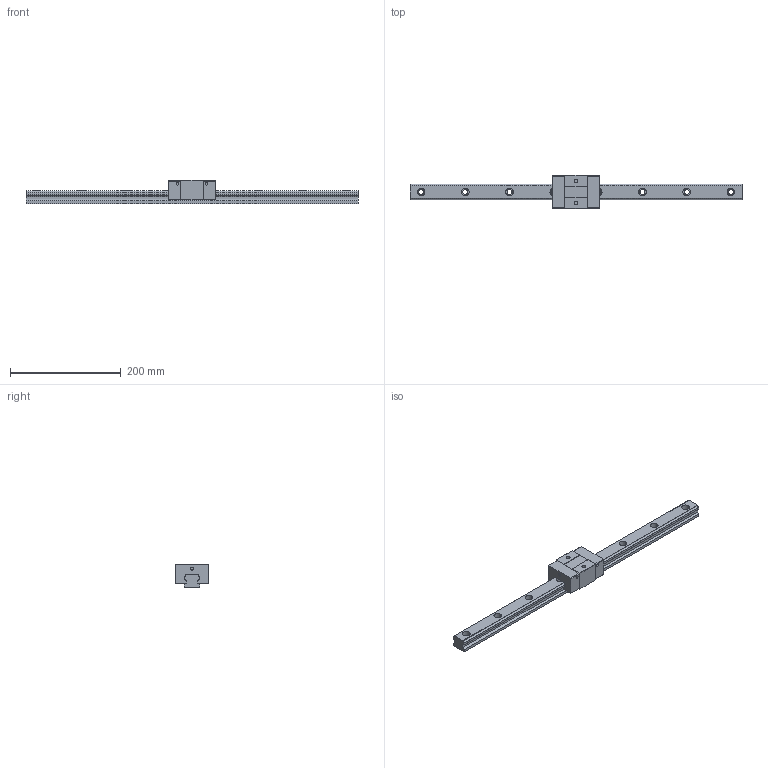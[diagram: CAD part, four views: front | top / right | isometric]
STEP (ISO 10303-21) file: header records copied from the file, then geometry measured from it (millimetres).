
FILE_DESCRIPTION (( 'STEP AP203' ), '1' );
FILE_NAME ('TRS30VS-DU.STEP', '2024-07-12T03:14:57', ( '' ), ( '' ), 'SwSTEP 2.0', 'SolidWorks 2022', '' );
FILE_SCHEMA (( 'CONFIG_CONTROL_DESIGN' ));
Length unit declared in the file: millimetre
Products named in the file (1): TRS30VS-DU
Bounding box: 600 x 60 x 42 mm (x, y, z)
Volume: 459948.4 mm3; surface area: 93189.4 mm2
Topology: 2 solids, 2 shells, 172 faces, 452 edges, 300 vertices
Faces by surface type: plane 88, cylinder 84
Entity records: 5459 total; most frequent: DIRECTION 966, CARTESIAN_POINT 925, ORIENTED_EDGE 904, EDGE_CURVE 452, AXIS2_PLACEMENT_3D 341, VERTEX_POINT 300, VECTOR 284, LINE 284
